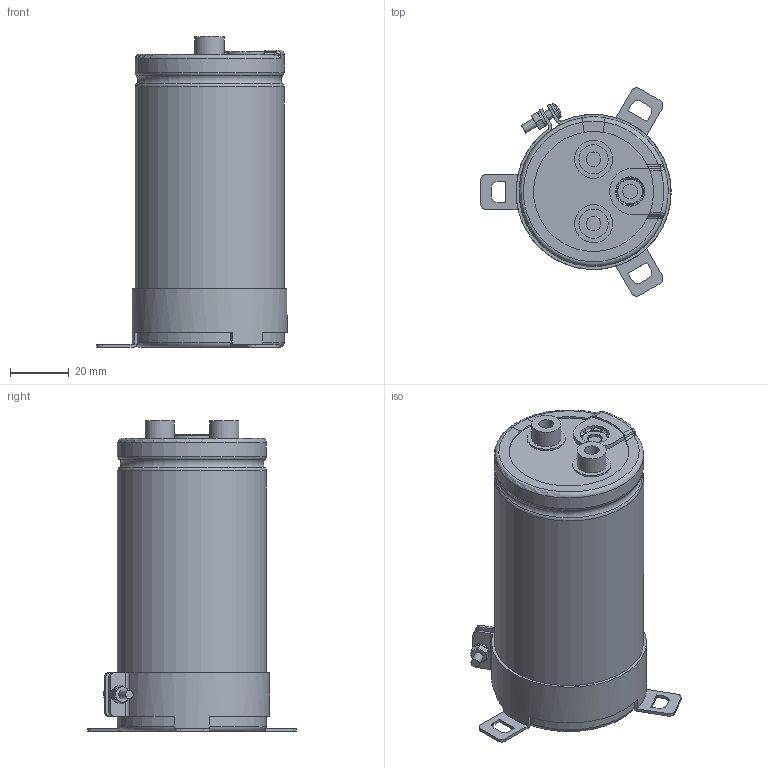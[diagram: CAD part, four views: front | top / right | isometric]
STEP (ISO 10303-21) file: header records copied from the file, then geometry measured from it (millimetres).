
FILE_DESCRIPTION(/* description */ (''),/* implementation_level */ '2;1');
FILE_NAME(/* name */ '51x100_Screw.stp',/* time_stamp */ '2017-09-15T13:48:35+09:00',/* author */ (''),/* organization */ (''),/* preprocessor_version */ 'ST-DEVELOPER v16',/* originating_system */ 'SIEMENS PLM Software NX 11.0',/* authorisation */ '');
FILE_SCHEMA (('AUTOMOTIVE_DESIGN { 1 0 10303 214 3 1 1 1 }'));
Length unit declared in the file: millimetre
Products named in the file (1): 51x100_Screw
Bounding box: 65 x 71.22 x 106 mm (x, y, z)
Volume: 206267.6 mm3; surface area: 62334.1 mm2
Topology: 9 solids, 9 shells, 298 faces, 744 edges, 471 vertices
Faces by surface type: plane 118, cylinder 78, torus 54, cone 31, bspline 12, sphere 5
Full cylindrical faces by diameter (mm): 3 x5, 5 x6, 5.5 x2, 10 x4, 13 x2, 49.8 x2
Entity records: 10562 total; most frequent: CARTESIAN_POINT 3129, DIRECTION 1450, ORIENTED_EDGE 1410, EDGE_CURVE 705, AXIS2_PLACEMENT_3D 606, VERTEX_POINT 464, EDGE_LOOP 353, CIRCLE 319
